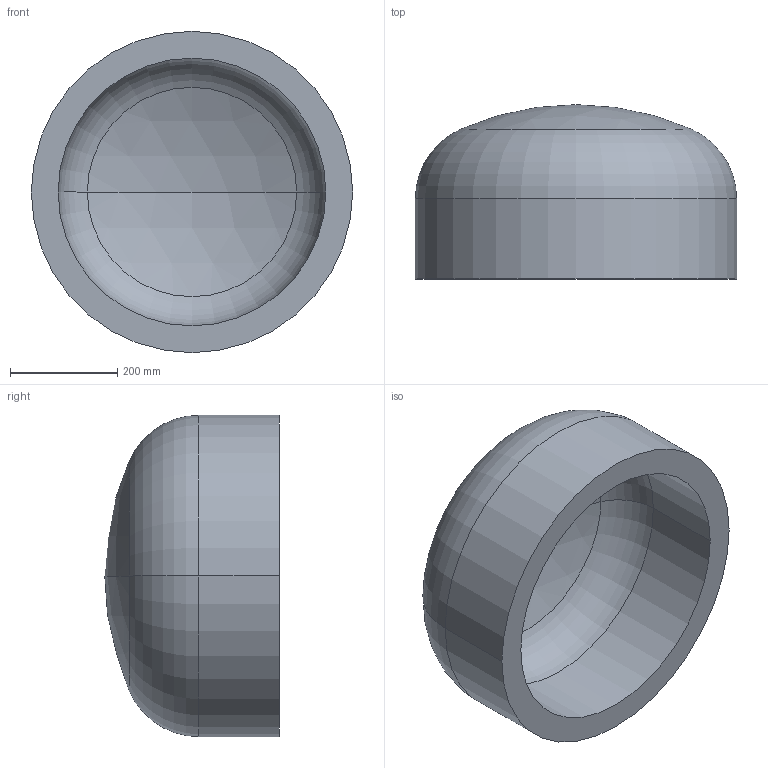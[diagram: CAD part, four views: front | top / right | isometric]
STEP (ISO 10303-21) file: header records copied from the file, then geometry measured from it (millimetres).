
FILE_DESCRIPTION (( 'STEP AP203' ), '1' );
FILE_NAME ('DIN 28013 Korbbogenform_-_Boden DIN 28013 - 600 x 150 - I - s=50.step', '2016-07-01T08:01:32', ( '' ), ( '' ), 'SwSTEP 2.0', 'SolidWorks 2013', '' );
FILE_SCHEMA (( 'CONFIG_CONTROL_DESIGN' ));
Length unit declared in the file: millimetre
Products named in the file (1): DIN 28013 Korbbogenform_-_Boden DIN 28013 - 600 x 150 - I - s=50
Bounding box: 600 x 325.63 x 600 mm (x, y, z)
Volume: 30582820.2 mm3; surface area: 1314942.4 mm2
Topology: 1 solids, 1 shells, 13 faces, 24 edges, 14 vertices
Faces by surface type: torus 4, cylinder 4, sphere 4, plane 1
Entity records: 407 total; most frequent: DIRECTION 72, CARTESIAN_POINT 52, ORIENTED_EDGE 48, AXIS2_PLACEMENT_3D 34, EDGE_CURVE 24, CIRCLE 20, EDGE_LOOP 14, VERTEX_POINT 14
